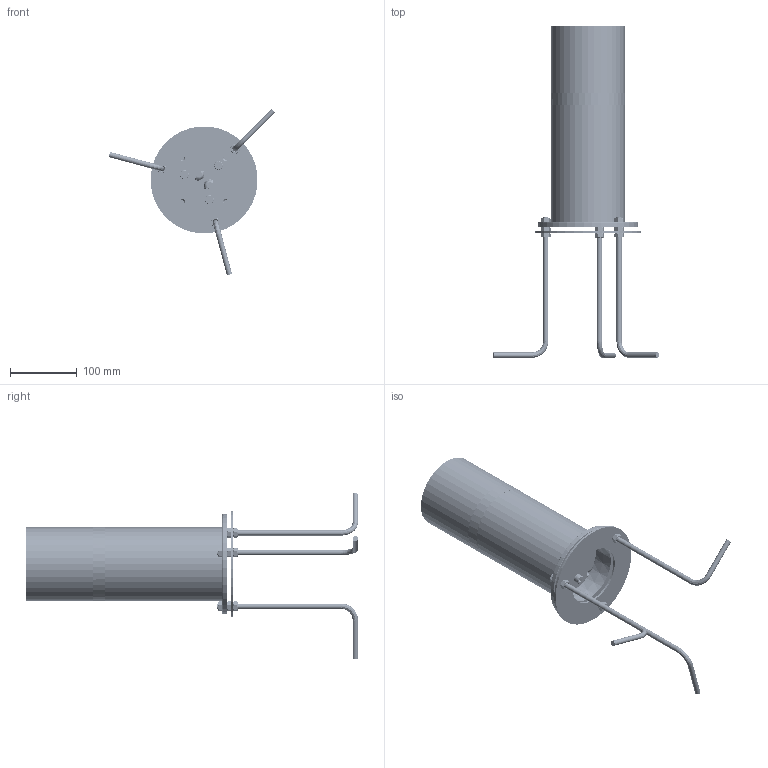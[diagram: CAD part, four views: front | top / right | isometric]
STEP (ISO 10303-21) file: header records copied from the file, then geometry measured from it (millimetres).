
FILE_DESCRIPTION((''),'2;1');
FILE_NAME('9EE-310_ASM','2024-09-20T',('C028'),(''),'CREO PARAMETRIC BY PTC INC, 2014190','CREO PARAMETRIC BY PTC INC, 2014190','');
FILE_SCHEMA(('CONFIG_CONTROL_DESIGN'));
Products named in the file (30): 9AD-07_300_1_35; XIN_XIA_GAI_A7_770; ZHONG_GAI_A8_165; XIN_TOU_GUANG_ZHAO_M_15; 10W_QU_DONG_6; XIN_SHANG_GAI_140; LED_DENG_BAN_15; XIN_FANG_SHUI_QUAN_54; 9EE_TOU_GUANG_ZHAO_A-9_81; SHANG_GAI_ZU_ASM_134_ASM; 9AB-04DUDINGZUOFANGSHUIQUAN_1_6; 9AB-03DUDINGZUOHOUGAI_1_8; PAD_312_1_1; FANGUANGSAI-1_312_1_1; FANGSHUISAI_312_1_1; PG9_ASM_315_ASM_1_ASM_2_ASM; M4_L100_4; LI_BAN; LI_BAN-24; 12-ZHUANGJIEGGAI_3; GUANZI_1; DICHA14A_ASM_1_ASM; 9AB_FA_LAN_PAN_56; M8-25; 9EE_A11_ASM_583_ASM; 9AB-11_4__ANY; M8LUOMU_3__ANY; 9AB-10_5__ANY; 9ABDIZUO_AF5_ASM_333_ASM_1_ANY_ASM; 9EE-310_ASM
Assembly tree (47 placements, depth 4):
  9EE-310_ASM
    9EE_A11_ASM_583_ASM
      9AD-07_300_1_35
      XIN_XIA_GAI_A7_770
      ZHONG_GAI_A8_165  x2
      XIN_TOU_GUANG_ZHAO_M_15
      10W_QU_DONG_6
      SHANG_GAI_ZU_ASM_134_ASM
        XIN_SHANG_GAI_140
        LED_DENG_BAN_15
        XIN_FANG_SHUI_QUAN_54
        9EE_TOU_GUANG_ZHAO_A-9_81
      9AB-04DUDINGZUOFANGSHUIQUAN_1_6
      9AB-03DUDINGZUOHOUGAI_1_8
      PG9_ASM_315_ASM_1_ASM_2_ASM  x2
        PAD_312_1_1
        FANGUANGSAI-1_312_1_1
        FANGSHUISAI_312_1_1
      M4_L100_4  x4
      LI_BAN
      LI_BAN-24
      DICHA14A_ASM_1_ASM
        12-ZHUANGJIEGGAI_3  x2
        GUANZI_1
      9AB_FA_LAN_PAN_56
      M8-25  x3
    9ABDIZUO_AF5_ASM_333_ASM_1_ANY_ASM
      9AB-11_4__ANY  x3
      M8LUOMU_3__ANY  x9
      9AB-10_5__ANY
Bounding box: 248.96 x 495.35 x 248.96 mm (x, y, z)
Volume: 1034410.4 mm3; surface area: 616879.2 mm2
Topology: 44 solids, 52 shells, 5452 faces, 16406 edges, 9622 vertices
Faces by surface type: plane 1923, sphere 1584, cylinder 972, cone 476, bspline 256, torus 241
Entity records: 160547 total; most frequent: CARTESIAN_POINT 59446, ORIENTED_EDGE 22756, DIRECTION 19204, EDGE_CURVE 11378, AXIS2_PLACEMENT_3D 7905, VERTEX_POINT 7317, EDGE_LOOP 4439, B_SPLINE_CURVE_WITH_KNOTS 4258
